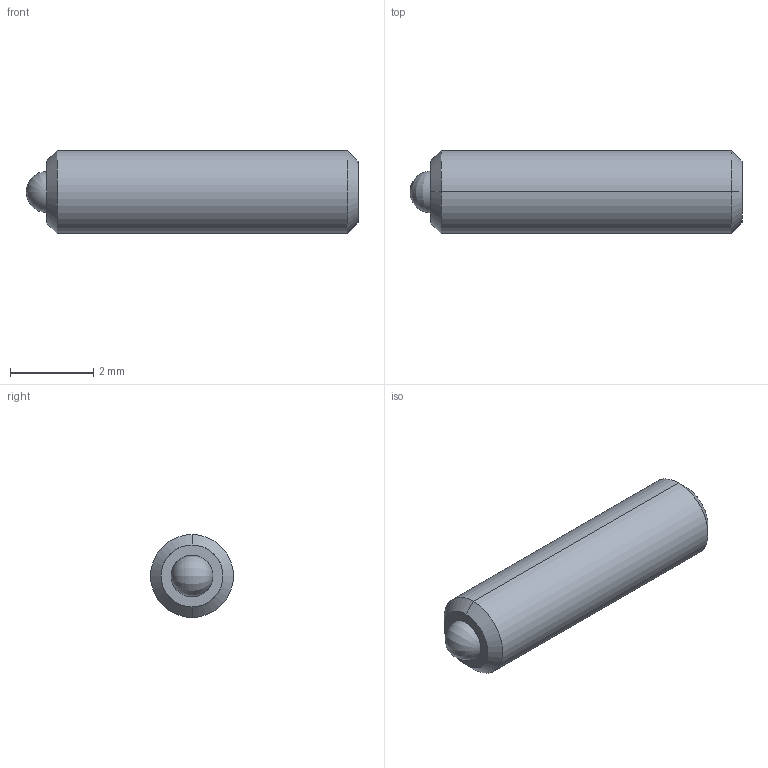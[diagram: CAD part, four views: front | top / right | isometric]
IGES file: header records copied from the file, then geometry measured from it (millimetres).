
Start section: SolidWorks IGES file using analytic representation for surfaces
Global section: file name: C:\Users\workpc\Desktop\KMA Solidworks\TS2-20-08.IGS; native system: SolidWorks 2013; preprocessor: SolidWorks 2013; author: workpc; date: 130217.115238; units: millimetre
Bounding box: 8 x 2 x 2 mm (x, y, z)
Surface area: 62.3 mm2 (no closed solid volume)
Topology: 0 solids, 0 shells, 20 faces, 140 edges, 136 vertices
Faces by surface type: revolution 10, bspline 10
